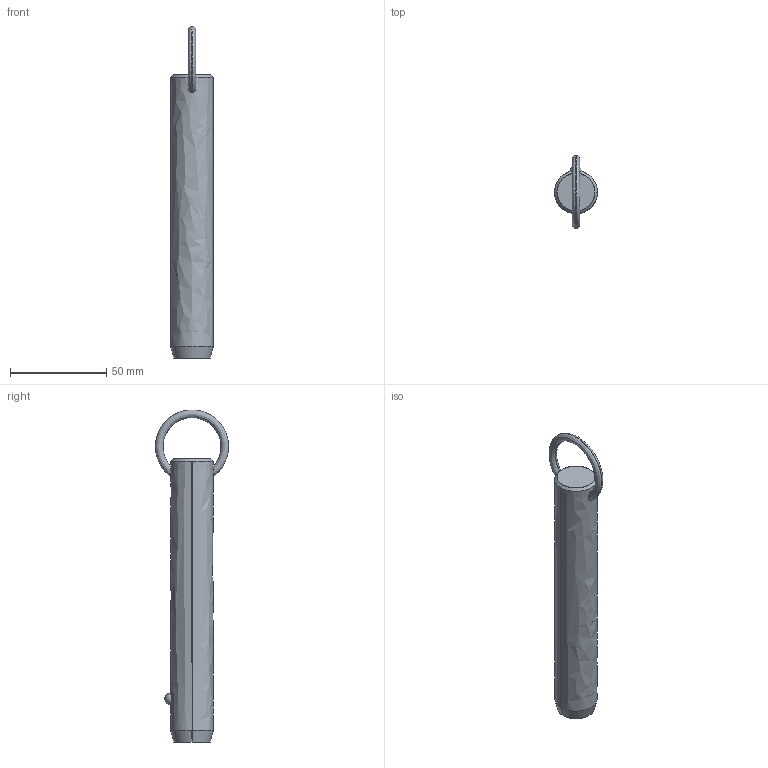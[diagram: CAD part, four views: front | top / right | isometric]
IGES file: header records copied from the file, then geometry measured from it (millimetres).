
Start section: SolidWorks IGES file using analytic representation for surfaces
Global section: file name: C:\Users\liam_\OneDrive\Documents\WORK\Work for WixRoyd\Job Files\J-00019 - Matt Davis CAD Checking\04. CAD Drawings\automotion20190605\P1250.2_v2\P1250.2_v2_20190729_IGES\P1250.087-430.igs; native system: SolidWorks 2017; preprocessor: SolidWorks 2017; author: liam_; date: 190730.001156; units: millimetre
Bounding box: 22.2 x 38.09 x 172.7 mm (x, y, z)
Surface area: 11917 mm2 (no closed solid volume)
Topology: 0 solids, 0 shells, 12 faces, 302 edges, 300 vertices
Faces by surface type: revolution 8, bspline 4
